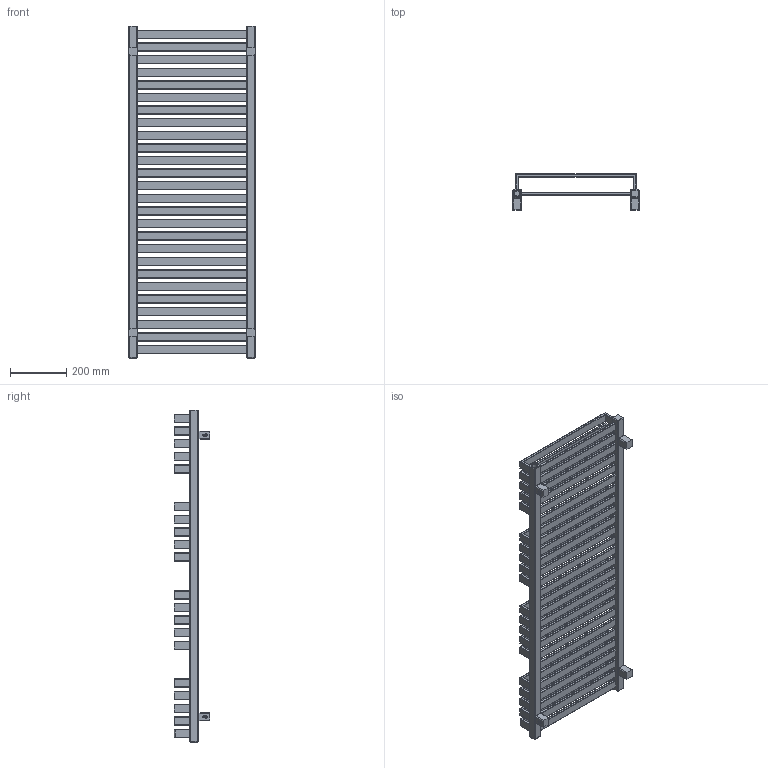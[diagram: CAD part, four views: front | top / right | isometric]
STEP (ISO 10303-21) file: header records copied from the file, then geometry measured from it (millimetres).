
FILE_DESCRIPTION((''),'2;1');
FILE_NAME('Z:\R\G\P\RGP093 - Grzejnik Quadrus Bold 2012\Work\Inventor\Marketing\Modele AutoCAD\QBA-1185-450 S5.stp','2012-07-02T07:50:02',('KurKa'),(''),'Autodesk Inventor 2012','Autodesk Inventor 2012','');
FILE_SCHEMA(('AUTOMOTIVE_DESIGN { 1 0 10303 214 1 1 1 1 }'));
Length unit declared in the file: millimetre
Products named in the file (3): QBA-1185-450 S5; MMT42_marketing
Assembly tree (5 placements, depth 2):
  QBA-1185-450 S5
    QBA-1185-450 S5
    MMT42_marketing  x4
Bounding box: 456 x 127 x 1185 mm (x, y, z)
Volume: 8366176.2 mm3; surface area: 1869013.6 mm2
Topology: 5 solids, 5 shells, 855 faces, 2237 edges, 1405 vertices
Faces by surface type: cylinder 421, plane 379, cone 27, sphere 16, torus 8, bspline 4
Full cylindrical faces by diameter (mm): 4.509 x4, 12 x4, 18.631 x3
Entity records: 22649 total; most frequent: CARTESIAN_POINT 4158, DIRECTION 3964, ORIENTED_EDGE 3772, EDGE_CURVE 1886, AXIS2_PLACEMENT_3D 1358, VECTOR 1248, LINE 1248, VERTEX_POINT 1188
